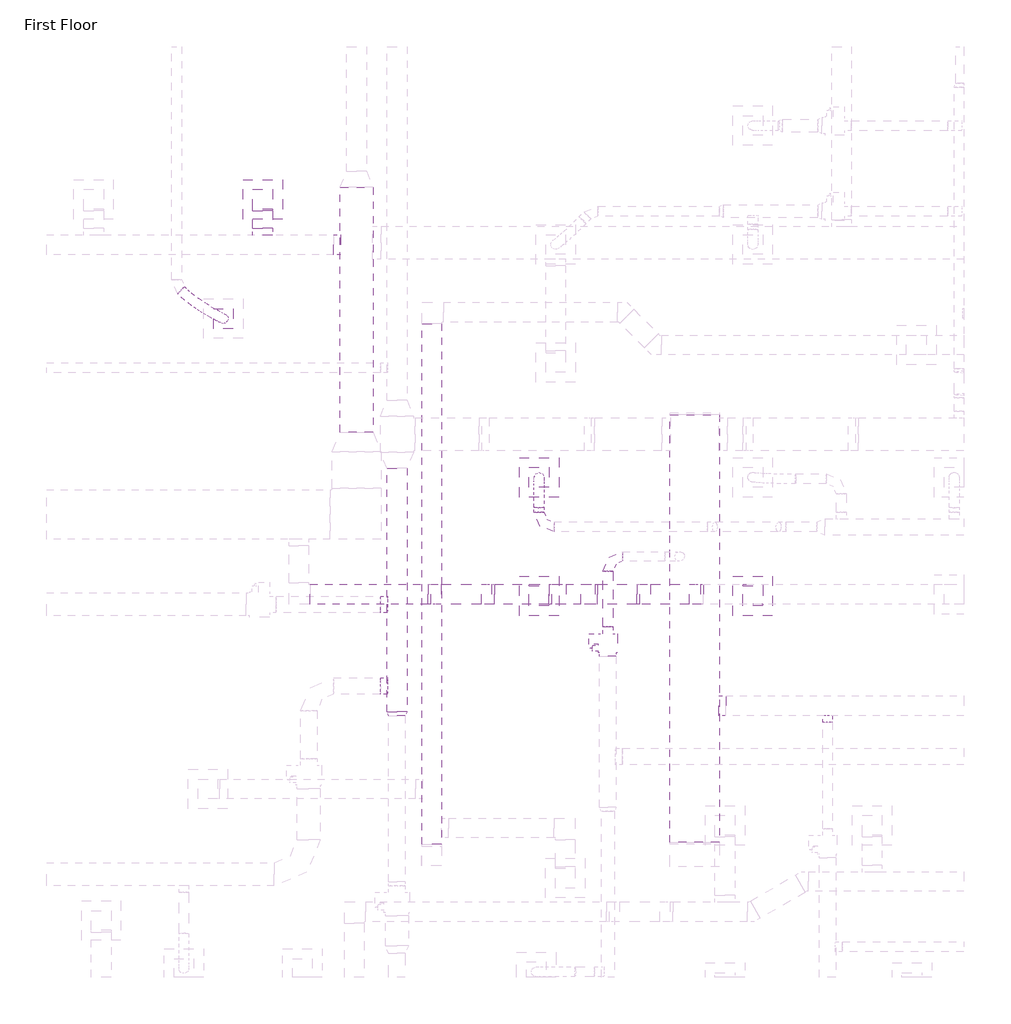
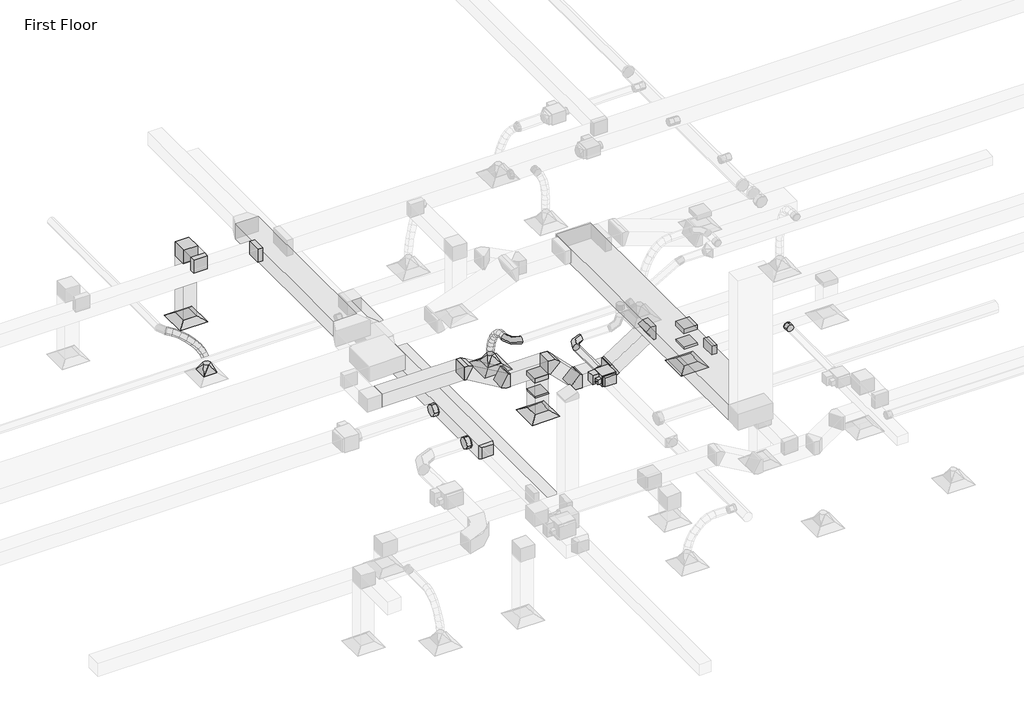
# One storey, part 39 of 61: 22 duct fittings, 20 duct segments, 4 air terminals, 1 proxy.
"""IFC4 building model written with IfcOpenShell, lengths in millimetres."""

from ifc_helpers import new_model, si_unit, point, frame, frame_2d, origin, place, context, project, spatial, polyline, circle_curve, ellipse_curve, trimmed, segment, composite_curve, outline, extrude, transform, mapped, element, save
from ifc_brep_helpers import plane_surface, cylinder_surface, advanced_brep
from components import m_exhaust_grill_er_600_x_600_face_300_x_300_connection_ff221211, m_vav_unit_single_duct_150_mm_ffdab17b, m_rectangular_elbow_mitered_standard_b81e202c, m_rectangular_elbow_mitered_standard_8eee5933, m_rectangular_elbow_mitered_standard_c00f9ebc, m_rectangular_elbow_mitered_standard_8b3b5101, m_rectangular_takeoff_standard_c00386d1, m_rectangular_takeoff_standard_b44bfa45, m_rectangular_takeoff_standard_a9933c07, m_rectangular_transition_angle_45_degree_46cb5fbc, m_rectangular_transition_angle_45_degree_29f2d6f3, m_rectangular_to_round_transition_angle_45_degree_8f201c83, m_round_elbow_1_5_d_2e586196, m_round_takeoff_standard_ce92a222, m_round_takeoff_standard_6838db43, m_round_takeoff_standard_aef5fa80

model = new_model("IFC4")

# Units and contexts
model_context = context("Model", 3, world=origin())
ifc_project = project(units=[si_unit("LENGTHUNIT", "METRE", prefix="MILLI")], contexts=[model_context])

# Site, building, storey
site = spatial("IfcSite", under=ifc_project)
building = spatial("IfcBuilding", under=site)
storey = spatial("IfcBuildingStorey", under=building, Name="First Floor", Elevation=0.0)

# Air terminals
placement = place(None, origin())
m_exhaust_grill_er_600_x_600_face_300_x_300_connection_shape = m_exhaust_grill_er_600_x_600_face_300_x_300_connection_ff221211(model_context)
element("IfcAirTerminal", 1, ObjectType="M_Return Register : RR-600 x 600 Face 300 x 300 Connection", at=placement, inside=storey, context=model_context, shape_type="MappedRepresentation", body=[
    mapped(m_exhaust_grill_er_600_x_600_face_300_x_300_connection_shape, transform((-41559.2724352, 47871.0942628, 2680.0), x_axis=(1.0, 0.0, 0.0), y_axis=(0.0, 1.0, 0.0), z_axis=(0.0, 0.0, 1.0))),
])
element("IfcAirTerminal", 2, ObjectType="M_Return Register : RR-600 x 600 Face 300 x 300 Connection", at=placement, inside=storey, context=model_context, shape_type="MappedRepresentation", body=[
    mapped(m_exhaust_grill_er_600_x_600_face_300_x_300_connection_shape, transform((-37357.0449113, 41845.0, 2680.0), x_axis=(1.0, 0.0, 0.0), y_axis=(0.0, 1.0, 0.0), z_axis=(0.0, 0.0, 1.0))),
])
element("IfcAirTerminal", 3, ObjectType="M_Return Register : RR-600 x 600 Face 300 x 300 Connection", at=placement, inside=storey, context=model_context, shape_type="MappedRepresentation", body=[
    mapped(m_exhaust_grill_er_600_x_600_face_300_x_300_connection_shape, transform((-34106.7085824, 41845.0, 2680.0), x_axis=(1.0, 0.0, 0.0), y_axis=(0.0, 1.0, 0.0), z_axis=(0.0, 0.0, 1.0))),
])
element("IfcAirTerminal", 4, ObjectType="M_Supply Diffuser : SD-600 x 600 Face 300 x 300 Connection", at=placement, inside=storey, context=model_context, shape_type="MappedRepresentation", body=[
    mapped(m_exhaust_grill_er_600_x_600_face_300_x_300_connection_shape, transform((-37357.0449113, 43646.5953777, 2680.0), x_axis=(1.0, 0.0, 0.0), y_axis=(0.0, 1.0, 0.0), z_axis=(0.0, 0.0, 1.0))),
])

# Proxy
m_vav_unit_single_duct_150_mm_shape = m_vav_unit_single_duct_150_mm_ffdab17b(model_context)
element("IfcBuildingElementProxy", 5, Name="M_VAV Unit - Single Duct : 150 mm", ObjectType="M_VAV Unit - Single Duct : 150 mm", at=placement, inside=storey, context=model_context, shape_type="MappedRepresentation", body=[
    mapped(m_vav_unit_single_duct_150_mm_shape, transform((-36311.3408383, 41272.4324746, 3499.9785156), x_axis=(0.0, -1.0, 0.0), y_axis=(1.0, 0.0, 0.0), z_axis=(0.0, 0.0, 1.0))),
])

# Duct fittings
m_rectangular_elbow_mitered_standard_shape = m_rectangular_elbow_mitered_standard_b81e202c(model_context)
element("IfcDuctFitting", 6, ObjectType="M_Rectangular Elbow - Mitered : Standard", at=placement, inside=storey, context=model_context, shape_type="MappedRepresentation", body=[
    mapped(m_rectangular_elbow_mitered_standard_shape, transform((-36552.6179613, 41867.8999759, 3183.5754036), x_axis=(-1.0, 0.0, 0.0), y_axis=(0.0, 0.0, 1.0), z_axis=(0.0, 1.0, 0.0))),
])
element("IfcDuctFitting", 7, ObjectType="M_Rectangular Elbow - Mitered : Standard", at=placement, inside=storey, context=model_context, shape_type="MappedRepresentation", body=[
    mapped(m_rectangular_elbow_mitered_standard_shape, transform((-37119.0425578, 41867.8999759, 3750.0), x_axis=(-0.7071067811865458, 0.0, 0.7071067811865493), y_axis=(-0.7071067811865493, 0.0, -0.7071067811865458), z_axis=(0.0, -1.0, 0.0))),
])
m_rectangular_elbow_mitered_standard_2_shape = m_rectangular_elbow_mitered_standard_8eee5933(model_context)
element("IfcDuctFitting", 8, ObjectType="M_Rectangular Elbow - Mitered : Standard", at=placement, inside=storey, context=model_context, shape_type="MappedRepresentation", body=[
    mapped(m_rectangular_elbow_mitered_standard_2_shape, transform((-41559.2724352, 47871.0942628, 4259.5), x_axis=(0.0, 0.0, 1.0), y_axis=(0.0, -1.0, 0.0), z_axis=(1.0, 0.0, 0.0))),
])
m_rectangular_elbow_mitered_standard_3_shape = m_rectangular_elbow_mitered_standard_c00f9ebc(model_context)
element("IfcDuctFitting", 9, ObjectType="M_Rectangular Elbow - Mitered : Standard", at=placement, inside=storey, context=model_context, shape_type="MappedRepresentation", body=[
    mapped(m_rectangular_elbow_mitered_standard_3_shape, transform((-34930.7549535, 41867.8999759, 3750.0), x_axis=(-1.0, 0.0, 0.0), y_axis=(0.0, 0.0, -1.0), z_axis=(0.0, -1.0, 0.0))),
])
element("IfcDuctFitting", 10, ObjectType="M_Rectangular Elbow - Mitered : Standard", at=placement, inside=storey, context=model_context, shape_type="MappedRepresentation", body=[
    mapped(m_rectangular_elbow_mitered_standard_3_shape, transform((-35802.9723442, 41867.8999759, 3183.5754036), x_axis=(-0.8386705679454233, 0.0, -0.5446390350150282), y_axis=(-0.5446390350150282, 0.0, 0.8386705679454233), z_axis=(0.0, 1.0, 0.0))),
])
m_rectangular_elbow_mitered_standard_4_shape = m_rectangular_elbow_mitered_standard_8b3b5101(model_context)
element("IfcDuctFitting", 11, ObjectType="M_Rectangular Elbow - Mitered : Standard", at=placement, inside=storey, context=model_context, shape_type="MappedRepresentation", body=[
    mapped(m_rectangular_elbow_mitered_standard_4_shape, transform((-38099.0425578, 41867.8999759, 3750.0), x_axis=(-1.0, 0.0, 0.0), y_axis=(0.0, 0.0, 1.0), z_axis=(0.0, 1.0, 0.0))),
])
element("IfcDuctFitting", 12, ObjectType="M_Rectangular Elbow - Mitered : Standard", at=placement, inside=storey, context=model_context, shape_type="MappedRepresentation", body=[
    mapped(m_rectangular_elbow_mitered_standard_4_shape, transform((-38981.5224442, 41867.8999759, 4259.5), x_axis=(-0.8660254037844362, 0.0, 0.5000000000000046), y_axis=(-0.5000000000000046, 0.0, -0.8660254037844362), z_axis=(0.0, -1.0, 0.0))),
])
m_rectangular_takeoff_standard_shape = m_rectangular_takeoff_standard_c00386d1(model_context)
element("IfcDuctFitting", 13, ObjectType="M_Rectangular Takeoff : Standard", at=placement, inside=storey, context=model_context, shape_type="MappedRepresentation", body=[
    mapped(m_rectangular_takeoff_standard_shape, transform((-34106.7085824, 41867.8999759, 3600.0), x_axis=(0.0, 0.0, -1.0), y_axis=(0.0, 1.0, 0.0), z_axis=(1.0, 0.0, 0.0))),
])
element("IfcDuctFitting", 14, ObjectType="M_Rectangular Takeoff : Standard", at=placement, inside=storey, context=model_context, shape_type="MappedRepresentation", body=[
    mapped(m_rectangular_takeoff_standard_shape, transform((-37357.0449113, 41867.8999759, 3600.0), x_axis=(0.0, 0.0, -1.0), y_axis=(0.0, 1.0, 0.0), z_axis=(1.0, 0.0, 0.0))),
])
element("IfcDuctFitting", 15, ObjectType="M_Rectangular Takeoff : Standard", at=placement, inside=storey, context=model_context, shape_type="MappedRepresentation", body=[
    mapped(m_rectangular_takeoff_standard_shape, transform((-41559.2724352, 47329.7739392, 4259.5), x_axis=(0.0, 1.0, 0.0), y_axis=(1.0, 0.0, 0.0), z_axis=(0.0, 0.0, -1.0))),
])
m_rectangular_takeoff_standard_2_shape = m_rectangular_takeoff_standard_b44bfa45(model_context)
element("IfcDuctFitting", 16, ObjectType="M_Rectangular Takeoff : Standard", at=placement, inside=storey, context=model_context, shape_type="MappedRepresentation", body=[
    mapped(m_rectangular_takeoff_standard_2_shape, transform((-40381.0542232, 47179.7739392, 4259.5), x_axis=(-1.0, 0.0, 0.0), y_axis=(0.0, 1.0, 0.0), z_axis=(0.0, 0.0, -1.0))),
])
m_rectangular_takeoff_standard_3_shape = m_rectangular_takeoff_standard_a9933c07(model_context)
element("IfcDuctFitting", 17, ObjectType="M_Rectangular Takeoff : Standard", at=placement, inside=storey, context=model_context, shape_type="MappedRepresentation", body=[
    mapped(m_rectangular_takeoff_standard_3_shape, transform((-34616.1904063, 40172.9559427, 4269.5), x_axis=(1.0, 0.0, 0.0), y_axis=(0.0, -1.0, 0.0), z_axis=(0.0, 0.0, -1.0))),
])
m_rectangular_transition_angle_45_degree_shape = m_rectangular_transition_angle_45_degree_46cb5fbc(model_context)
element("IfcDuctFitting", 18, ObjectType="M_Rectangular Transition - Angle : 45 Degree", at=placement, inside=storey, context=model_context, shape_type="MappedRepresentation", body=[
    mapped(m_rectangular_transition_angle_45_degree_shape, transform((-39517.6187402, 40022.8982867, 3659.5), x_axis=(0.0, 0.9999999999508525, -9.914385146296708e-06), y_axis=(-1.0, 0.0, 0.0), z_axis=(0.0, 9.914385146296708e-06, 0.9999999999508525))),
])
m_rectangular_transition_angle_45_degree_2_shape = m_rectangular_transition_angle_45_degree_29f2d6f3(model_context)
element("IfcDuctFitting", 19, ObjectType="M_Rectangular Transition - Angle : 45 Degree", at=placement, inside=storey, context=model_context, shape_type="MappedRepresentation", body=[
    mapped(m_rectangular_transition_angle_45_degree_2_shape, transform((-34106.7085824, 41845.0, 3162.6), x_axis=(0.0, 0.0, 1.0), y_axis=(1.0, 0.0, 0.0), z_axis=(0.0, 1.0, 0.0))),
])
element("IfcDuctFitting", 20, ObjectType="M_Rectangular Transition - Angle : 45 Degree", at=placement, inside=storey, context=model_context, shape_type="MappedRepresentation", body=[
    mapped(m_rectangular_transition_angle_45_degree_2_shape, transform((-37357.0449113, 41845.0, 3162.6), x_axis=(0.0, 0.0, 1.0), y_axis=(1.0, 0.0, 0.0), z_axis=(0.0, 1.0, 0.0))),
])
m_rectangular_to_round_transition_angle_45_degree_shape = m_rectangular_to_round_transition_angle_45_degree_8f201c83(model_context)
element("IfcDuctFitting", 21, ObjectType="M_Rectangular to Round Transition - Angle : 45 Degree", at=placement, inside=storey, context=model_context, shape_type="MappedRepresentation", body=[
    mapped(m_rectangular_to_round_transition_angle_45_degree_shape, transform((-42157.9361632, 46057.2158131, 2781.6), x_axis=(0.0, 0.0, 1.0), y_axis=(1.0, 0.0, 0.0), z_axis=(0.0, 1.0, 0.0))),
])
element("IfcDuctFitting", 22, ObjectType="M_Rectangular to Round Transition - Angle : 45 Degree", at=placement, inside=storey, context=model_context, shape_type="MappedRepresentation", body=[
    mapped(m_rectangular_to_round_transition_angle_45_degree_shape, transform((-37357.0449113, 43646.5953777, 2781.6), x_axis=(0.0, 0.0, 1.0), y_axis=(1.0, 0.0, 0.0), z_axis=(0.0, 1.0, 0.0))),
])
m_round_elbow_1_5_d_shape = m_round_elbow_1_5_d_2e586196(model_context)
element("IfcDuctFitting", 23, ObjectType="M_Round Elbow : 1.5 D", at=placement, inside=storey, context=model_context, shape_type="MappedRepresentation", body=[
    mapped(m_round_elbow_1_5_d_shape, transform((-36310.4908383, 42443.2870823, 3609.5), x_axis=(-1.0, 0.0, 0.0), y_axis=(0.0, -0.9999999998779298, 1.562499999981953e-05), z_axis=(0.0, 1.562499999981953e-05, 0.9999999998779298))),
])
element("IfcDuctFitting", 24, ObjectType="M_Round Elbow : 1.5 D", at=placement, inside=storey, context=model_context, shape_type="MappedRepresentation", body=[
    mapped(m_round_elbow_1_5_d_shape, transform((-37357.0449113, 42891.9406833, 3659.5), x_axis=(0.0, -1.0, 0.0), y_axis=(1.0, 0.0, 0.0), z_axis=(0.0, 0.0, 1.0))),
])
m_round_takeoff_standard_shape = m_round_takeoff_standard_ce92a222(model_context)
element("IfcDuctFitting", 25, ObjectType="M_Round Takeoff : Standard", at=placement, inside=storey, context=model_context, shape_type="MappedRepresentation", body=[
    mapped(m_round_takeoff_standard_shape, transform((-39667.6187402, 40472.4324746, 3659.5), x_axis=(-1.0, 0.0, 0.0), y_axis=(0.0, 1.0, 0.0), z_axis=(0.0, 0.0, -1.0))),
])
m_round_takeoff_standard_2_shape = m_round_takeoff_standard_6838db43(model_context)
element("IfcDuctFitting", 26, ObjectType="M_Round Takeoff : Standard", at=placement, inside=storey, context=model_context, shape_type="MappedRepresentation", body=[
    mapped(m_round_takeoff_standard_2_shape, transform((-39667.6187402, 41714.569914, 3659.5094966), x_axis=(-0.9999999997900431, 0.0, -2.0491803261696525e-05), y_axis=(0.0, 1.0000000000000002, 0.0), z_axis=(2.0491803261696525e-05, 0.0, -0.9999999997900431))),
])
m_round_takeoff_standard_3_shape = m_round_takeoff_standard_aef5fa80(model_context)
element("IfcDuctFitting", 27, ObjectType="M_Round Takeoff : Standard", at=placement, inside=storey, context=model_context, shape_type="MappedRepresentation", body=[
    mapped(m_round_takeoff_standard_3_shape, transform((-32970.7817748, 40022.9559427, 4269.4934778), x_axis=(0.0, -0.9999999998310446, 1.838235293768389e-05), y_axis=(-1.0, 0.0, 0.0), z_axis=(0.0, -1.838235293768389e-05, -0.9999999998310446))),
])

# Duct segments
element("IfcDuctSegment", 28, ObjectType="Flex - Round", at=placement, inside=storey, context=model_context, shape_type="AdvancedBrep", body=[
    advanced_brep(
    [(-42744.0995534, 46540.2835509, 3669.1), (-42801.2330296, 46490.8579658, 3594.6494967), (-42844.9500766, 46429.2467463, 3669.1), (-42787.8166004, 46478.6723314, 3743.5505033), (-42648.247493, 46453.2247555, 3653.3387967), (-42709.080208, 46407.1590489, 3579.4965689), (-42744.9799131, 46338.4476339, 3652.6616463), (-42684.147198, 46384.5133405, 3726.5038741), (-42115.729761, 46119.1906896, 2964.3195858), (-42096.7265271, 46015.2424306, 2973.4648877), (-42200.1425655, 45995.2409366, 2961.0124486), (-42219.1457994, 46099.1891956, 2951.8671466), (-42546.4830044, 46374.3601085, 3609.4282949), (-42614.5706125, 46333.9167422, 3538.7164911), (-42636.2794506, 46254.2078001, 3605.7583314), (-42568.1918425, 46294.6511664, 3676.4701352), (-42442.3497329, 46303.0315585, 3540.4701851), (-42517.2211156, 46267.2348992, 3474.2506657), (-42527.8657021, 46179.947236, 3533.9656463), (-42452.9943193, 46215.7438953, 3600.1851656), (-42342.4526916, 46241.0808683, 3450.4892341), (-42424.0167015, 46209.4346109, 3390.2980109), (-42425.6943122, 46116.586119, 3441.9361056), (-42344.1303023, 46148.2323763, 3502.1273287), (-42253.307474, 46190.1555977, 3343.6355306), (-42341.7787694, 46162.4552097, 3291.7237088), (-42335.8103454, 46065.2388291, 3334.196902), (-42247.33905, 46092.9392171, 3386.1087238), (-42181.3688906, 46151.8005121, 3224.0141307), (-42276.9495345, 46127.8905751, 3183.9239237), (-42264.3196491, 46027.122541, 3215.320261), (-42168.7390052, 46051.0324781, 3255.410468), (-42133.1567668, 46127.5558451, 3095.6124417), (-42235.1828285, 46106.8871468, 3072.6880938), (-42217.263056, 46003.4589612, 3089.9960568), (-42115.2369943, 46024.1276595, 3112.9204047)],
    [
        (0, 1, circle_curve(frame((-42794.524815, 46484.7651486, 3669.1), z_axis=(-0.7348218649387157, 0.6674108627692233, 0.12082866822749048), x_axis=(0.6723368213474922, 0.7402453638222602, 0.0)), 75.0)),
        (1, 2, circle_curve(frame((-42794.524815, 46484.7651486, 3669.1), z_axis=(-0.7348218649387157, 0.6674108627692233, 0.12082866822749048), x_axis=(0.6723368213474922, 0.7402453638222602, 0.0)), 75.0)),
        (2, 3, circle_curve(frame((-42794.524815, 46484.7651486, 3669.1), z_axis=(-0.7348218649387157, 0.6674108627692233, 0.12082866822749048), x_axis=(0.6723368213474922, 0.7402453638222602, 0.0)), 75.0)),
        (3, 0, circle_curve(frame((-42794.524815, 46484.7651486, 3669.1), z_axis=(-0.7348218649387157, 0.6674108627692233, 0.12082866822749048), x_axis=(0.6723368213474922, 0.7402453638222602, 0.0)), 75.0)),
        (0, 4),
        (4, 5, ellipse_curve(frame((-42696.613703, 46395.8361947, 3653.0002215), z_axis=(-0.7460172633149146, 0.6274153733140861, 0.223177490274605), x_axis=(0.06024867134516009, 0.3973552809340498, -0.9156849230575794)), 75.4603177, 75.0)),
        (5, 1),
        (5, 6, ellipse_curve(frame((-42696.613703, 46395.8361947, 3653.0002215), z_axis=(-0.7460172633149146, 0.6274153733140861, 0.223177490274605), x_axis=(0.06024867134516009, 0.3973552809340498, -0.9156849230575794)), 75.4603177, 75.0)),
        (6, 2),
        (6, 7, ellipse_curve(frame((-42696.613703, 46395.8361947, 3653.0002215), z_axis=(-0.7460172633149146, 0.6274153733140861, 0.223177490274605), x_axis=(0.06024867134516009, 0.3973552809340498, -0.9156849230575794)), 75.4603177, 75.0)),
        (7, 3),
        (7, 4, ellipse_curve(frame((-42696.613703, 46395.8361947, 3653.0002215), z_axis=(-0.7460172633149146, 0.6274153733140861, 0.223177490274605), x_axis=(0.06024867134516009, 0.3973552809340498, -0.9156849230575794)), 75.4603177, 75.0)),
        (8, 9, circle_curve(frame((-42157.9361632, 46057.2158131, 2962.6660172), z_axis=(0.1313181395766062, -0.06303415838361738, -0.9893342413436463), x_axis=(0.5627520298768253, 0.8263316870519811, 0.02204758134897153)), 75.0)),
        (9, 10, circle_curve(frame((-42157.9361632, 46057.2158131, 2962.6660172), z_axis=(0.1313181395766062, -0.06303415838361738, -0.9893342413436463), x_axis=(0.5627520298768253, 0.8263316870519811, 0.02204758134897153)), 75.0)),
        (10, 11, circle_curve(frame((-42157.9361632, 46057.2158131, 2962.6660172), z_axis=(0.1313181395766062, -0.06303415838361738, -0.9893342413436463), x_axis=(0.5627520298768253, 0.8263316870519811, 0.02204758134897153)), 75.0)),
        (11, 8, circle_curve(frame((-42157.9361632, 46057.2158131, 2962.6660172), z_axis=(0.1313181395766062, -0.06303415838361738, -0.9893342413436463), x_axis=(0.5627520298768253, 0.8263316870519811, 0.02204758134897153)), 75.0)),
        (4, 12),
        (12, 13, ellipse_curve(frame((-42591.3812275, 46314.2839543, 3607.5933131), z_axis=(-0.739035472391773, 0.5400203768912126, 0.4027462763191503), x_axis=(-0.13442959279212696, 0.46760117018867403, -0.873657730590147)), 75.3032035, 75.0)),
        (13, 5),
        (13, 14, ellipse_curve(frame((-42591.3812275, 46314.2839543, 3607.5933131), z_axis=(-0.739035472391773, 0.5400203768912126, 0.4027462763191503), x_axis=(-0.13442959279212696, 0.46760117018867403, -0.873657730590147)), 75.3032035, 75.0)),
        (14, 6),
        (14, 15, ellipse_curve(frame((-42591.3812275, 46314.2839543, 3607.5933131), z_axis=(-0.739035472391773, 0.5400203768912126, 0.4027462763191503), x_axis=(-0.13442959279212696, 0.46760117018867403, -0.873657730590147)), 75.3032035, 75.0)),
        (15, 7),
        (15, 12, ellipse_curve(frame((-42591.3812275, 46314.2839543, 3607.5933131), z_axis=(-0.739035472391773, 0.5400203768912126, 0.4027462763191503), x_axis=(-0.13442959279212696, 0.46760117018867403, -0.873657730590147)), 75.3032035, 75.0)),
        (12, 16),
        (16, 17, ellipse_curve(frame((-42485.1077175, 46241.4893973, 3537.2179157), z_axis=(-0.701605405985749, 0.4586388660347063, 0.5453441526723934), x_axis=(-0.3116657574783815, 0.4907204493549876, -0.8136694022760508)), 75.2345392, 75.0)),
        (17, 13),
        (17, 18, ellipse_curve(frame((-42485.1077175, 46241.4893973, 3537.2179157), z_axis=(-0.701605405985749, 0.4586388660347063, 0.5453441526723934), x_axis=(-0.3116657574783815, 0.4907204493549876, -0.8136694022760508)), 75.2345392, 75.0)),
        (18, 14),
        (18, 19, ellipse_curve(frame((-42485.1077175, 46241.4893973, 3537.2179157), z_axis=(-0.701605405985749, 0.4586388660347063, 0.5453441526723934), x_axis=(-0.3116657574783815, 0.4907204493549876, -0.8136694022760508)), 75.2345392, 75.0)),
        (19, 15),
        (19, 16, ellipse_curve(frame((-42485.1077175, 46241.4893973, 3537.2179157), z_axis=(-0.701605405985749, 0.4586388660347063, 0.5453441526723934), x_axis=(-0.3116657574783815, 0.4907204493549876, -0.8136694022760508)), 75.2345392, 75.0)),
        (16, 20),
        (20, 21, ellipse_curve(frame((-42384.0735019, 46178.8334936, 3446.2126698), z_axis=(-0.6401161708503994, 0.3822172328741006, 0.6664542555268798), x_axis=(-0.47482979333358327, 0.4851313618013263, -0.7342916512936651)), 75.2240198, 75.0)),
        (21, 17),
        (21, 22, ellipse_curve(frame((-42384.0735019, 46178.8334936, 3446.2126698), z_axis=(-0.6401161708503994, 0.3822172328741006, 0.6664542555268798), x_axis=(-0.47482979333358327, 0.4851313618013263, -0.7342916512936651)), 75.2240198, 75.0)),
        (22, 18),
        (22, 23, ellipse_curve(frame((-42384.0735019, 46178.8334936, 3446.2126698), z_axis=(-0.6401161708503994, 0.3822172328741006, 0.6664542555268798), x_axis=(-0.47482979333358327, 0.4851313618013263, -0.7342916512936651)), 75.2240198, 75.0)),
        (23, 19),
        (23, 20, ellipse_curve(frame((-42384.0735019, 46178.8334936, 3446.2126698), z_axis=(-0.6401161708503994, 0.3822172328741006, 0.6664542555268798), x_axis=(-0.47482979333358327, 0.4851313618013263, -0.7342916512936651)), 75.2240198, 75.0)),
        (20, 24),
        (24, 25, ellipse_curve(frame((-42294.5589097, 46127.6972134, 3338.9162163), z_axis=(-0.5512187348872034, 0.30539041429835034, 0.7764628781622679), x_axis=(-0.6228955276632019, 0.4685350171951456, -0.6264791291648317)), 75.2659875, 75.0)),
        (25, 21),
        (25, 26, ellipse_curve(frame((-42294.5589097, 46127.6972134, 3338.9162163), z_axis=(-0.5512187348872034, 0.30539041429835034, 0.7764628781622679), x_axis=(-0.6228955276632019, 0.4685350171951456, -0.6264791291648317)), 75.2659875, 75.0)),
        (26, 22),
        (26, 27, ellipse_curve(frame((-42294.5589097, 46127.6972134, 3338.9162163), z_axis=(-0.5512187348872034, 0.30539041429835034, 0.7764628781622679), x_axis=(-0.6228955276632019, 0.4685350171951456, -0.6264791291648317)), 75.2659875, 75.0)),
        (27, 23),
        (27, 24, ellipse_curve(frame((-42294.5589097, 46127.6972134, 3338.9162163), z_axis=(-0.5512187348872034, 0.30539041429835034, 0.7764628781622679), x_axis=(-0.6228955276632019, 0.4685350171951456, -0.6264791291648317)), 75.2659875, 75.0)),
        (24, 28),
        (28, 29, ellipse_curve(frame((-42222.8442699, 46089.4615266, 3219.6671959), z_axis=(-0.4236804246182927, 0.22062244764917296, 0.8785332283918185), x_axis=(-0.7527740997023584, 0.45369057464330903, -0.4769654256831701)), 75.3790752, 75.0)),
        (29, 25),
        (29, 30, ellipse_curve(frame((-42222.8442699, 46089.4615266, 3219.6671959), z_axis=(-0.4236804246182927, 0.22062244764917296, 0.8785332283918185), x_axis=(-0.7527740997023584, 0.45369057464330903, -0.4769654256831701)), 75.3790752, 75.0)),
        (30, 26),
        (30, 31, ellipse_curve(frame((-42222.8442699, 46089.4615266, 3219.6671959), z_axis=(-0.4236804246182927, 0.22062244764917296, 0.8785332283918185), x_axis=(-0.7527740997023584, 0.45369057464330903, -0.4769654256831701)), 75.3790752, 75.0)),
        (31, 27),
        (31, 28, ellipse_curve(frame((-42222.8442699, 46089.4615266, 3219.6671959), z_axis=(-0.4236804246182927, 0.22062244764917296, 0.8785332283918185), x_axis=(-0.7527740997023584, 0.45369057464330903, -0.4769654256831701)), 75.3790752, 75.0)),
        (28, 32),
        (32, 33, ellipse_curve(frame((-42175.2099114, 46065.5074031, 3092.8042492), z_axis=(-0.24063751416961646, 0.11949737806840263, 0.9632310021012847), x_axis=(-0.8557031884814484, 0.4422707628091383, -0.2686421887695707)), 75.5979876, 75.0)),
        (33, 29),
        (33, 34, ellipse_curve(frame((-42175.2099114, 46065.5074031, 3092.8042492), z_axis=(-0.24063751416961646, 0.11949737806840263, 0.9632310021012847), x_axis=(-0.8557031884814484, 0.4422707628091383, -0.2686421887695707)), 75.5979876, 75.0)),
        (34, 30),
        (34, 35, ellipse_curve(frame((-42175.2099114, 46065.5074031, 3092.8042492), z_axis=(-0.24063751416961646, 0.11949737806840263, 0.9632310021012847), x_axis=(-0.8557031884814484, 0.4422707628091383, -0.2686421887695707)), 75.5979876, 75.0)),
        (35, 31),
        (35, 32, ellipse_curve(frame((-42175.2099114, 46065.5074031, 3092.8042492), z_axis=(-0.24063751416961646, 0.11949737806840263, 0.9632310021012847), x_axis=(-0.8557031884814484, 0.4422707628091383, -0.2686421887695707)), 75.5979876, 75.0)),
        (32, 8),
        (11, 33),
        (10, 34),
        (9, 35),
    ],
    [
        plane_surface(frame((-42794.524815, 46498.1260252, 3595.2996817), z_axis=(-0.7348218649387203, 0.6674108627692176, 0.12082866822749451), x_axis=(0.6782601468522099, 0.7230678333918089, 0.13090485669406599))),
        cylinder_surface(frame((-42794.524815, 46484.7651486, 3669.1), z_axis=(-0.7348218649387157, 0.6674108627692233, 0.12082866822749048), x_axis=(0.6723368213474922, 0.7402453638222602, 0.0)), 75.0),
        plane_surface(frame((-42157.9361632, 46132.0640461, 2957.8971583), z_axis=(0.13131813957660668, -0.06303415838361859, -0.9893342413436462), x_axis=(0.9913402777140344, 0.008349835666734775, 0.13105240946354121))),
        cylinder_surface(frame((-42696.613703, 46395.8361947, 3653.0002215), z_axis=(-0.748111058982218, 0.5797652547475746, 0.3228034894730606), x_axis=(0.6169322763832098, 0.7868416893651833, 0.016574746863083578)), 75.0),
        cylinder_surface(frame((-42591.3812275, 46314.2839543, 3607.5933131), z_axis=(-0.7240085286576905, 0.49592678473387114, 0.4794457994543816), x_axis=(0.5809429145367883, 0.8131394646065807, 0.03618758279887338)), 75.0),
        cylinder_surface(frame((-42485.1077175, 46241.4893973, 3537.2179157), z_axis=(-0.6748278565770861, 0.4184913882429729, 0.6078423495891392), x_axis=(0.5600061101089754, 0.8268258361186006, 0.052461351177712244)), 75.0),
        cylinder_surface(frame((-42384.0735019, 46178.8334936, 3446.2126698), z_axis=(-0.6015919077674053, 0.34366656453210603, 0.7210967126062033), x_axis=(0.5504315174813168, 0.8325428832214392, 0.06242989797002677)), 75.0),
        cylinder_surface(frame((-42294.5589097, 46127.6972134, 3338.9162163), z_axis=(-0.49694958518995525, 0.26495578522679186, 0.8263410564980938), x_axis=(0.5496784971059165, 0.8329600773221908, 0.0634906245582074)), 75.0),
        cylinder_surface(frame((-42222.8442699, 46089.4615266, 3219.6671959), z_axis=(-0.34614995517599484, 0.174070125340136, 0.9218892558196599), x_axis=(0.5553221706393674, 0.8300212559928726, 0.05178804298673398)), 75.0),
        cylinder_surface(frame((-42175.2099114, 46065.5074031, 3092.8042492), z_axis=(-0.1313181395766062, 0.06303415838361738, 0.9893342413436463), x_axis=(0.5627520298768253, 0.8263316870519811, 0.02204758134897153)), 75.0),
    ],
    [
        (0, [[1, 2, 3, 4]]),
        (1, [[-1, 5, 6, 7]]),
        (1, [[-2, -7, 8, 9]]),
        (1, [[-3, -9, 10, 11]]),
        (1, [[-4, -11, 12, -5]]),
        (2, [[13, 14, 15, 16]]),
        (3, [[-6, 17, 18, 19]]),
        (3, [[-8, -19, 20, 21]]),
        (3, [[-10, -21, 22, 23]]),
        (3, [[-12, -23, 24, -17]]),
        (4, [[-18, 25, 26, 27]]),
        (4, [[-20, -27, 28, 29]]),
        (4, [[-22, -29, 30, 31]]),
        (4, [[-24, -31, 32, -25]]),
        (5, [[-26, 33, 34, 35]]),
        (5, [[-28, -35, 36, 37]]),
        (5, [[-30, -37, 38, 39]]),
        (5, [[-32, -39, 40, -33]]),
        (6, [[-34, 41, 42, 43]]),
        (6, [[-36, -43, 44, 45]]),
        (6, [[-38, -45, 46, 47]]),
        (6, [[-40, -47, 48, -41]]),
        (7, [[-42, 49, 50, 51]]),
        (7, [[-44, -51, 52, 53]]),
        (7, [[-46, -53, 54, 55]]),
        (7, [[-48, -55, 56, -49]]),
        (8, [[-50, 57, 58, 59]]),
        (8, [[-52, -59, 60, 61]]),
        (8, [[-54, -61, 62, 63]]),
        (8, [[-56, -63, 64, -57]]),
        (9, [[-58, 65, -16, 66]]),
        (9, [[-60, -66, -15, 67]]),
        (9, [[-62, -67, -14, 68]]),
        (9, [[-64, -68, -13, -65]]),
    ],
),
])
element("IfcDuctSegment", 29, ObjectType="Flex - Round", at=placement, inside=storey, context=model_context, shape_type="AdvancedBrep", body=[
    advanced_brep(
    [(-37432.0449113, 43191.9406833, 3659.5), (-37357.0449113, 43178.1383024, 3585.7809775), (-37282.0449113, 43191.9406833, 3659.5), (-37357.0449113, 43205.7430642, 3733.2190225), (-37432.0449113, 43291.1053362, 3640.9334447), (-37357.0449113, 43264.7060901, 3569.5729278), (-37282.0449113, 43291.1053362, 3640.9334447), (-37357.0449113, 43317.5045823, 3712.2939615), (-37432.0449113, 43646.5953777, 2962.6660172), (-37357.0449113, 43721.3882377, 2968.2363036), (-37282.0449113, 43646.5953777, 2962.6660172), (-37357.0449113, 43571.8025177, 2957.0957308), (-37432.0449113, 43379.9859293, 3589.6215069), (-37357.0449113, 43333.9814364, 3529.5793574), (-37282.0449113, 43379.9859293, 3589.6215069), (-37357.0449113, 43425.9904222, 3649.6636563), (-37432.0449113, 43457.6769473, 3512.1457789), (-37357.0449113, 43399.5913763, 3464.1512296), (-37282.0449113, 43457.6769473, 3512.1457789), (-37357.0449113, 43515.7625183, 3560.1403282), (-37432.0449113, 43523.2728749, 3415.087853), (-37357.0449113, 43458.0089364, 3377.7146562), (-37282.0449113, 43523.2728749, 3415.087853), (-37357.0449113, 43588.5368135, 3452.4610499), (-37432.0449113, 43575.868197, 3305.0293216), (-37357.0449113, 43506.1727352, 3276.9293248), (-37282.0449113, 43575.868197, 3305.0293216), (-37357.0449113, 43645.5636589, 3333.1293184), (-37432.0449113, 43614.5573983, 3188.551777), (-37357.0449113, 43541.9819951, 3169.1221196), (-37282.0449113, 43614.5573983, 3188.551777), (-37357.0449113, 43687.1328016, 3207.9814344), (-37432.0449113, 43638.4349636, 3072.2368114), (-37357.0449113, 43563.9994583, 3061.8682831), (-37282.0449113, 43638.4349636, 3072.2368114), (-37357.0449113, 43712.8704689, 3082.6053397)],
    [
        (0, 1, circle_curve(frame((-37357.0449113, 43191.9406833, 3659.5), z_axis=(0.0, -0.9829203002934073, 0.18403174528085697), x_axis=(-1.0, 0.0, 0.0)), 75.0)),
        (1, 2, circle_curve(frame((-37357.0449113, 43191.9406833, 3659.5), z_axis=(0.0, -0.9829203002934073, 0.18403174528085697), x_axis=(-1.0, 0.0, 0.0)), 75.0)),
        (2, 3, circle_curve(frame((-37357.0449113, 43191.9406833, 3659.5), z_axis=(0.0, -0.9829203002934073, 0.18403174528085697), x_axis=(-1.0, 0.0, 0.0)), 75.0)),
        (3, 0, circle_curve(frame((-37357.0449113, 43191.9406833, 3659.5), z_axis=(0.0, -0.9829203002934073, 0.18403174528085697), x_axis=(-1.0, 0.0, 0.0)), 75.0)),
        (0, 4),
        (4, 5, ellipse_curve(frame((-37357.0449113, 43291.1053362, 3640.9334447), z_axis=(0.0, -0.9378795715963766, 0.34696096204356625), x_axis=(0.0, -0.3469609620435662, -0.9378795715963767)), 76.0870788, 75.0)),
        (5, 1),
        (5, 6, ellipse_curve(frame((-37357.0449113, 43291.1053362, 3640.9334447), z_axis=(0.0, -0.9378795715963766, 0.34696096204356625), x_axis=(0.0, -0.3469609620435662, -0.9378795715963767)), 76.0870788, 75.0)),
        (6, 2),
        (6, 7, ellipse_curve(frame((-37357.0449113, 43291.1053362, 3640.9334447), z_axis=(0.0, -0.9378795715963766, 0.34696096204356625), x_axis=(0.0, -0.3469609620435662, -0.9378795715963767)), 76.0870788, 75.0)),
        (7, 3),
        (7, 4, ellipse_curve(frame((-37357.0449113, 43291.1053362, 3640.9334447), z_axis=(0.0, -0.9378795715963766, 0.34696096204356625), x_axis=(0.0, -0.3469609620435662, -0.9378795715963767)), 76.0870788, 75.0)),
        (8, 9, circle_curve(frame((-37357.0449113, 43646.5953777, 2962.6660172), z_axis=(0.0, 0.07427048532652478, -0.9972381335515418), x_axis=(-1.0, 0.0, 0.0)), 75.0)),
        (9, 10, circle_curve(frame((-37357.0449113, 43646.5953777, 2962.6660172), z_axis=(0.0, 0.07427048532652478, -0.9972381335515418), x_axis=(-1.0, 0.0, 0.0)), 75.0)),
        (10, 11, circle_curve(frame((-37357.0449113, 43646.5953777, 2962.6660172), z_axis=(0.0, 0.07427048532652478, -0.9972381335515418), x_axis=(-1.0, 0.0, 0.0)), 75.0)),
        (11, 8, circle_curve(frame((-37357.0449113, 43646.5953777, 2962.6660172), z_axis=(0.0, 0.07427048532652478, -0.9972381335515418), x_axis=(-1.0, 0.0, 0.0)), 75.0)),
        (4, 12),
        (12, 13, ellipse_curve(frame((-37357.0449113, 43379.9859293, 3589.6215069), z_axis=(0.0, -0.7937839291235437, 0.6081998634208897), x_axis=(0.0, -0.6081998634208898, -0.7937839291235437)), 75.6404196, 75.0)),
        (13, 5),
        (13, 14, ellipse_curve(frame((-37357.0449113, 43379.9859293, 3589.6215069), z_axis=(0.0, -0.7937839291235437, 0.6081998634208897), x_axis=(0.0, -0.6081998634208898, -0.7937839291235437)), 75.6404196, 75.0)),
        (14, 6),
        (14, 15, ellipse_curve(frame((-37357.0449113, 43379.9859293, 3589.6215069), z_axis=(0.0, -0.7937839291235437, 0.6081998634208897), x_axis=(0.0, -0.6081998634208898, -0.7937839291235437)), 75.6404196, 75.0)),
        (15, 7),
        (15, 12, ellipse_curve(frame((-37357.0449113, 43379.9859293, 3589.6215069), z_axis=(0.0, -0.7937839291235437, 0.6081998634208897), x_axis=(0.0, -0.6081998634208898, -0.7937839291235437)), 75.6404196, 75.0)),
        (12, 16),
        (16, 17, ellipse_curve(frame((-37357.0449113, 43457.6769473, 3512.1457789), z_axis=(0.0, -0.6369667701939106, 0.7708912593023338), x_axis=(0.0, -0.7708912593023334, -0.6369667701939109)), 75.348592, 75.0)),
        (17, 13),
        (17, 18, ellipse_curve(frame((-37357.0449113, 43457.6769473, 3512.1457789), z_axis=(0.0, -0.6369667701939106, 0.7708912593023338), x_axis=(0.0, -0.7708912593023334, -0.6369667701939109)), 75.348592, 75.0)),
        (18, 14),
        (18, 19, ellipse_curve(frame((-37357.0449113, 43457.6769473, 3512.1457789), z_axis=(0.0, -0.6369667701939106, 0.7708912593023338), x_axis=(0.0, -0.7708912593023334, -0.6369667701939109)), 75.348592, 75.0)),
        (19, 15),
        (19, 16, ellipse_curve(frame((-37357.0449113, 43457.6769473, 3512.1457789), z_axis=(0.0, -0.6369667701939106, 0.7708912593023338), x_axis=(0.0, -0.7708912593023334, -0.6369667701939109)), 75.348592, 75.0)),
        (16, 20),
        (20, 21, ellipse_curve(frame((-37357.0449113, 43523.2728749, 3415.087853), z_axis=(0.0, -0.4969357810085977, 0.8677873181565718), x_axis=(0.0, -0.8677873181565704, -0.49693578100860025)), 75.207297, 75.0)),
        (21, 17),
        (21, 22, ellipse_curve(frame((-37357.0449113, 43523.2728749, 3415.087853), z_axis=(0.0, -0.4969357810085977, 0.8677873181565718), x_axis=(0.0, -0.8677873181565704, -0.49693578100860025)), 75.207297, 75.0)),
        (22, 18),
        (22, 23, ellipse_curve(frame((-37357.0449113, 43523.2728749, 3415.087853), z_axis=(0.0, -0.4969357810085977, 0.8677873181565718), x_axis=(0.0, -0.8677873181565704, -0.49693578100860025)), 75.207297, 75.0)),
        (23, 19),
        (23, 20, ellipse_curve(frame((-37357.0449113, 43523.2728749, 3415.087853), z_axis=(0.0, -0.4969357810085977, 0.8677873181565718), x_axis=(0.0, -0.8677873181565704, -0.49693578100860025)), 75.207297, 75.0)),
        (20, 24),
        (24, 25, ellipse_curve(frame((-37357.0449113, 43575.868197, 3305.0293216), z_axis=(0.0, -0.37393385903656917, 0.9274553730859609), x_axis=(0.0, -0.9274553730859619, -0.37393385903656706)), 75.1469708, 75.0)),
        (25, 21),
        (25, 26, ellipse_curve(frame((-37357.0449113, 43575.868197, 3305.0293216), z_axis=(0.0, -0.37393385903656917, 0.9274553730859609), x_axis=(0.0, -0.9274553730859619, -0.37393385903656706)), 75.1469708, 75.0)),
        (26, 22),
        (26, 27, ellipse_curve(frame((-37357.0449113, 43575.868197, 3305.0293216), z_axis=(0.0, -0.37393385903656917, 0.9274553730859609), x_axis=(0.0, -0.9274553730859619, -0.37393385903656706)), 75.1469708, 75.0)),
        (27, 23),
        (27, 24, ellipse_curve(frame((-37357.0449113, 43575.868197, 3305.0293216), z_axis=(0.0, -0.37393385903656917, 0.9274553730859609), x_axis=(0.0, -0.9274553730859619, -0.37393385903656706)), 75.1469708, 75.0)),
        (24, 28),
        (28, 29, ellipse_curve(frame((-37357.0449113, 43614.5573983, 3188.551777), z_axis=(0.0, -0.2586096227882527, 0.9659819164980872), x_axis=(0.0, -0.965981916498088, -0.2586096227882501)), 75.1312235, 75.0)),
        (29, 25),
        (29, 30, ellipse_curve(frame((-37357.0449113, 43614.5573983, 3188.551777), z_axis=(0.0, -0.2586096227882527, 0.9659819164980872), x_axis=(0.0, -0.965981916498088, -0.2586096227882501)), 75.1312235, 75.0)),
        (30, 26),
        (30, 31, ellipse_curve(frame((-37357.0449113, 43614.5573983, 3188.551777), z_axis=(0.0, -0.2586096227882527, 0.9659819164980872), x_axis=(0.0, -0.965981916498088, -0.2586096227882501)), 75.1312235, 75.0)),
        (31, 27),
        (31, 28, ellipse_curve(frame((-37357.0449113, 43614.5573983, 3188.551777), z_axis=(0.0, -0.2586096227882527, 0.9659819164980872), x_axis=(0.0, -0.965981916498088, -0.2586096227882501)), 75.1312235, 75.0)),
        (28, 32),
        (32, 33, ellipse_curve(frame((-37357.0449113, 43638.4349636, 3072.2368114), z_axis=(0.0, -0.1379634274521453, 0.9904373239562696), x_axis=(0.0, -0.9904373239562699, -0.13796342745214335)), 75.1541804, 75.0)),
        (33, 29),
        (33, 34, ellipse_curve(frame((-37357.0449113, 43638.4349636, 3072.2368114), z_axis=(0.0, -0.1379634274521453, 0.9904373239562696), x_axis=(0.0, -0.9904373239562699, -0.13796342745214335)), 75.1541804, 75.0)),
        (34, 30),
        (34, 35, ellipse_curve(frame((-37357.0449113, 43638.4349636, 3072.2368114), z_axis=(0.0, -0.1379634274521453, 0.9904373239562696), x_axis=(0.0, -0.9904373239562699, -0.13796342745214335)), 75.1541804, 75.0)),
        (35, 31),
        (35, 32, ellipse_curve(frame((-37357.0449113, 43638.4349636, 3072.2368114), z_axis=(0.0, -0.1379634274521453, 0.9904373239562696), x_axis=(0.0, -0.9904373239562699, -0.13796342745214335)), 75.1541804, 75.0)),
        (32, 8),
        (11, 33),
        (10, 34),
        (9, 35),
    ],
    [
        plane_surface(frame((-37357.0449113, 43205.7430642, 3733.2190225), z_axis=(0.0, -0.9829203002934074, 0.18403174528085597), x_axis=(1.0, 0.0, 0.0))),
        cylinder_surface(frame((-37357.0449113, 43191.9406833, 3659.5), z_axis=(0.0, -0.9829203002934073, 0.18403174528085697), x_axis=(-1.0, 0.0, 0.0)), 75.0),
        plane_surface(frame((-37357.0449113, 43721.3882377, 2968.2363036), z_axis=(0.0, 0.07427048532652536, -0.9972381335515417), x_axis=(1.0, 0.0, 0.0))),
        cylinder_surface(frame((-37357.0449113, 43291.1053362, 3640.9334447), z_axis=(0.0, -0.8660393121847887, 0.49997590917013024), x_axis=(-1.0, 0.0, 0.0)), 75.0),
        cylinder_surface(frame((-37357.0449113, 43379.9859293, 3589.6215069), z_axis=(0.0, -0.708087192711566, 0.7061250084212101), x_axis=(-1.0, 0.0, 0.0)), 75.0),
        cylinder_surface(frame((-37357.0449113, 43457.6769473, 3512.1457789), z_axis=(0.0, -0.5599526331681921, 0.8285246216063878), x_axis=(-1.0, 0.0, 0.0)), 75.0),
        cylinder_surface(frame((-37357.0449113, 43523.2728749, 3415.087853), z_axis=(0.0, -0.4311794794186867, 0.9022661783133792), x_axis=(-1.0, 0.0, 0.0)), 75.0),
        cylinder_surface(frame((-37357.0449113, 43575.868197, 3305.0293216), z_axis=(0.0, -0.31522557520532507, 0.9490167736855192), x_axis=(-1.0, 0.0, 0.0)), 75.0),
        cylinder_surface(frame((-37357.0449113, 43614.5573983, 3188.551777), z_axis=(0.0, -0.20109029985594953, 0.9795727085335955), x_axis=(-1.0, 0.0, 0.0)), 75.0),
        cylinder_surface(frame((-37357.0449113, 43638.4349636, 3072.2368114), z_axis=(0.0, -0.07427048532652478, 0.9972381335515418), x_axis=(-1.0, 0.0, 0.0)), 75.0),
    ],
    [
        (0, [[1, 2, 3, 4]]),
        (1, [[-1, 5, 6, 7]]),
        (1, [[-2, -7, 8, 9]]),
        (1, [[-3, -9, 10, 11]]),
        (1, [[-4, -11, 12, -5]]),
        (2, [[13, 14, 15, 16]]),
        (3, [[-6, 17, 18, 19]]),
        (3, [[-8, -19, 20, 21]]),
        (3, [[-10, -21, 22, 23]]),
        (3, [[-12, -23, 24, -17]]),
        (4, [[-18, 25, 26, 27]]),
        (4, [[-20, -27, 28, 29]]),
        (4, [[-22, -29, 30, 31]]),
        (4, [[-24, -31, 32, -25]]),
        (5, [[-26, 33, 34, 35]]),
        (5, [[-28, -35, 36, 37]]),
        (5, [[-30, -37, 38, 39]]),
        (5, [[-32, -39, 40, -33]]),
        (6, [[-34, 41, 42, 43]]),
        (6, [[-36, -43, 44, 45]]),
        (6, [[-38, -45, 46, 47]]),
        (6, [[-40, -47, 48, -41]]),
        (7, [[-42, 49, 50, 51]]),
        (7, [[-44, -51, 52, 53]]),
        (7, [[-46, -53, 54, 55]]),
        (7, [[-48, -55, 56, -49]]),
        (8, [[-50, 57, 58, 59]]),
        (8, [[-52, -59, 60, 61]]),
        (8, [[-54, -61, 62, 63]]),
        (8, [[-56, -63, 64, -57]]),
        (9, [[-58, 65, -16, 66]]),
        (9, [[-60, -66, -15, 67]]),
        (9, [[-62, -67, -14, 68]]),
        (9, [[-64, -68, -13, -65]]),
    ],
),
])
element("IfcDuctSegment", 30, ObjectType="Mitered Elbows / Taps", at=placement, inside=storey, context=model_context, shape_type="SweptSolid", body=[
    extrude(outline(polyline([(-35366.1904063, 44599.674982), (-34616.1904063, 44599.674982), (-34616.1904063, 38099.674982), (-35366.1904063, 38099.674982), (-35366.1904063, 44599.674982)])), frame((0.0, 0.0, 4084.5), z_axis=(0.0, 0.0, 1.0), x_axis=(1.0, 0.0, 0.0)), (0.0, 0.0, 1.0), 350.0),
])
element("IfcDuctSegment", 31, ObjectType="Mitered Elbows / Taps", at=placement, inside=storey, context=model_context, shape_type="SweptSolid", body=[
    extrude(outline(polyline([(-34256.7085824, 41717.8999759), (-34256.7085824, 42017.8999759), (-33956.7085824, 42017.8999759), (-33956.7085824, 41717.8999759), (-34256.7085824, 41717.8999759)])), frame((0.0, 0.0, 3188.0), z_axis=(0.0, 0.0, 1.0), x_axis=(1.0, 0.0, 0.0)), (0.0, 0.0, 1.0), 312.0),
])
element("IfcDuctSegment", 32, ObjectType="Mitered Elbows / Taps", at=placement, inside=storey, context=model_context, shape_type="SweptSolid", body=[
    extrude(outline(polyline([(-33956.7085824, 41695.0), (-34256.7085824, 41695.0), (-34256.7085824, 41995.0), (-33956.7085824, 41995.0), (-33956.7085824, 41695.0)])), frame((0.0, 0.0, 2781.6), z_axis=(0.0, 0.0, 1.0), x_axis=(1.0, 0.0, 0.0)), (0.0, 0.0, 1.0), 381.0),
])
element("IfcDuctSegment", 33, ObjectType="Mitered Elbows / Taps", at=placement, inside=storey, context=model_context, shape_type="SweptSolid", body=[
    extrude(outline(polyline([(0.0, -300.0), (0.0, 0.0), (901.1359514, 0.0), (901.1359514, -300.0), (0.0, -300.0)])), frame((-34907.2896935, 41717.8999759, 3586.3840241), z_axis=(-0.5446390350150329, 0.0, 0.8386705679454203), x_axis=(-0.8386705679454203, 0.0, -0.5446390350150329)), (0.0, 0.0, 1.0), 300.0),
])
element("IfcDuctSegment", 34, ObjectType="Mitered Elbows / Taps", at=placement, inside=storey, context=model_context, shape_type="SweptSolid", body=[
    extrude(outline(polyline([(-35872.4043684, 42017.8999759), (-35872.4043684, 41717.8999759), (-36465.485927, 41717.8999759), (-36465.485927, 42017.8999759), (-35872.4043684, 42017.8999759)])), frame((0.0, 0.0, 3033.5754036), z_axis=(0.0, 0.0, 1.0), x_axis=(1.0, 0.0, 0.0)), (0.0, 0.0, 1.0), 300.0),
])
element("IfcDuctSegment", 35, ObjectType="Mitered Elbows / Taps", at=placement, inside=storey, context=model_context, shape_type="SweptSolid", body=[
    extrude(outline(polyline([(0.0, -300.0), (0.0, 0.0), (626.7812776, 0.0), (626.7812776, -300.0), (0.0, -300.0)])), frame((-36720.2956309, 41717.8999759, 3139.1210388), z_axis=(0.7071067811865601, 0.0, 0.707106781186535), x_axis=(-0.707106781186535, 0.0, 0.7071067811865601)), (0.0, 0.0, 1.0), 300.0),
])
element("IfcDuctSegment", 36, ObjectType="Mitered Elbows / Taps", at=placement, inside=storey, context=model_context, shape_type="SweptSolid", body=[
    extrude(outline(polyline([(-37206.1745921, 42017.8999759), (-37206.1745921, 41717.8999759), (-38033.8501789, 41717.8999759), (-38033.8501789, 42017.8999759), (-37206.1745921, 42017.8999759)])), frame((0.0, 0.0, 3600.0), z_axis=(0.0, 0.0, 1.0), x_axis=(1.0, 0.0, 0.0)), (0.0, 0.0, 1.0), 300.0),
])
element("IfcDuctSegment", 37, ObjectType="Mitered Elbows / Taps", at=placement, inside=storey, context=model_context, shape_type="SweptSolid", body=[
    extrude(outline(polyline([(-37507.0449113, 41717.8999759), (-37507.0449113, 42017.8999759), (-37207.0449113, 42017.8999759), (-37207.0449113, 41717.8999759), (-37507.0449113, 41717.8999759)])), frame((0.0, 0.0, 3188.0), z_axis=(0.0, 0.0, 1.0), x_axis=(1.0, 0.0, 0.0)), (0.0, 0.0, 1.0), 312.0),
])
element("IfcDuctSegment", 38, ObjectType="Mitered Elbows / Taps", at=placement, inside=storey, context=model_context, shape_type="SweptSolid", body=[
    extrude(outline(polyline([(-37207.0449113, 41695.0), (-37507.0449113, 41695.0), (-37507.0449113, 41995.0), (-37207.0449113, 41995.0), (-37207.0449113, 41695.0)])), frame((0.0, 0.0, 2781.6), z_axis=(0.0, 0.0, 1.0), x_axis=(1.0, 0.0, 0.0)), (0.0, 0.0, 1.0), 381.0),
])
element("IfcDuctSegment", 39, ObjectType="Mitered Elbows / Taps", at=placement, inside=storey, context=model_context, shape_type="SweptSolid", body=[
    extrude(outline(polyline([(-41709.2724352, 47696.0942628), (-41409.2724352, 47696.0942628), (-41409.2724352, 47429.7739392), (-41709.2724352, 47429.7739392), (-41709.2724352, 47696.0942628)])), frame((0.0, 0.0, 4109.5), z_axis=(0.0, 0.0, 1.0), x_axis=(1.0, 0.0, 0.0)), (0.0, 0.0, 1.0), 300.0),
])
element("IfcDuctSegment", 40, ObjectType="Mitered Elbows / Taps", at=placement, inside=storey, context=model_context, shape_type="SweptSolid", body=[
    extrude(outline(polyline([(-41409.2724352, 47721.0942628), (-41709.2724352, 47721.0942628), (-41709.2724352, 48021.0942628), (-41409.2724352, 48021.0942628), (-41409.2724352, 47721.0942628)])), frame((0.0, 0.0, 2781.6), z_axis=(0.0, 0.0, 1.0), x_axis=(1.0, 0.0, 0.0)), (0.0, 0.0, 1.0), 1302.9),
])
element("IfcDuctSegment", 41, ObjectType="Mitered Elbows / Taps", at=placement, inside=storey, context=model_context, shape_type="SweptSolid", body=[
    extrude(outline(polyline([(-40381.0542232, 48053.0059615), (-39881.0542232, 48053.0059615), (-39881.0542232, 44332.6026172), (-40381.0542232, 44332.6026172), (-40381.0542232, 48053.0059615)])), frame((0.0, 0.0, 3992.610768), z_axis=(0.0, 0.0, 1.0), x_axis=(1.0, 0.0, 0.0)), (0.0, 0.0, 1.0), 350.0),
])
element("IfcDuctSegment", 42, ObjectType="Mitered Elbows / Taps", at=placement, inside=storey, context=model_context, shape_type="SweptSolid", body=[
    extrude(outline(polyline([(0.0, -300.0), (0.0, 0.0), (888.6152423, 0.0), (888.6152423, -300.0), (0.0, -300.0)])), frame((-38230.500814, 41717.8999759, 3652.6923789), z_axis=(0.5000000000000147, 0.0, 0.8660254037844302), x_axis=(-0.8660254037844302, 0.0, 0.5000000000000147)), (0.0, 0.0, 1.0), 300.0),
])
element("IfcDuctSegment", 43, ObjectType="Mitered Elbows / Taps", at=placement, inside=storey, context=model_context, shape_type="SweptSolid", body=[
    extrude(outline(polyline([(-39046.7148231, 42017.8999759), (-39046.7148231, 41717.8999759), (-40834.3980886, 41717.8999759), (-40834.3980886, 42017.8999759), (-39046.7148231, 42017.8999759)])), frame((0.0, 0.0, 4109.5), z_axis=(0.0, 0.0, 1.0), x_axis=(1.0, 0.0, 0.0)), (0.0, 0.0, 1.0), 300.0),
])
element("IfcDuctSegment", 44, ObjectType="Mitered Elbows / Taps", at=placement, inside=storey, context=model_context, shape_type="SweptSolid", body=[
    extrude(outline(polyline([(-39135.9613903, 45978.353423), (-38835.9613903, 45978.353423), (-38835.9613903, 38066.6210678), (-39135.9613903, 38066.6210678), (-39135.9613903, 45978.353423)])), frame((0.0, 0.0, 3050.0), z_axis=(0.0, 0.0, 1.0), x_axis=(1.0, 0.0, 0.0)), (0.0, 0.0, 1.0), 300.0),
])
element("IfcDuctSegment", 45, ObjectType="Radius Elbows / Taps", at=placement, inside=storey, context=model_context, shape_type="SweptSolid", body=[
    extrude(outline(polyline([(-39667.6187402, 43783.2536258), (-39367.6187402, 43783.2536258), (-39367.6187402, 40083.2536258), (-39667.6187402, 40083.2536258), (-39667.6187402, 43783.2536258)])), frame((0.0, 0.0, 3509.5), z_axis=(0.0, 0.0, 1.0), x_axis=(1.0, 0.0, 0.0)), (0.0, 0.0, 1.0), 300.0),
])
element("IfcDuctSegment", 46, ObjectType="Taps", at=placement, inside=storey, context=model_context, shape_type="SweptSolid", body=[
    extrude(outline(composite_curve([segment(trimmed(circle_curve(frame_2d((3609.5035156, -36310.4908383)), 75.0), [point((3609.5035156, -36235.4908383))], [point((3684.5035156, -36310.4908383))], False, "CARTESIAN"), True, "CONTINUOUS"), segment(trimmed(circle_curve(frame_2d((3609.5035156, -36310.4908383)), 75.0), [point((3684.5035156, -36310.4908383))], [point((3609.5035156, -36385.4908383))], False, "CARTESIAN"), True, "CONTINUOUS"), segment(trimmed(circle_curve(frame_2d((3609.5035156, -36310.4908383)), 75.0), [point((3609.5035156, -36385.4908383))], [point((3534.5035156, -36310.4908383))], False, "CARTESIAN"), True, "CONTINUOUS"), segment(trimmed(circle_curve(frame_2d((3609.5035156, -36310.4908383)), 75.0), [point((3534.5035156, -36310.4908383))], [point((3609.5035156, -36235.4908383))], False, "CARTESIAN"), True, "CONTINUOUS")], self_intersect=False)), frame((0.0, 41374.0324746, 0.0), z_axis=(0.0, 1.0, 0.0), x_axis=(0.0, 0.0, 1.0)), (0.0, 0.0, 1.0), 844.2546077),
])
element("IfcDuctSegment", 47, ObjectType="Taps", at=placement, inside=storey, context=model_context, shape_type="SweptSolid", body=[
    extrude(outline(composite_curve([segment(trimmed(circle_curve(frame_2d((3659.5, -37357.0449113)), 75.0), [point((3659.5, -37282.0449113))], [point((3734.5, -37357.0449113))], False, "CARTESIAN"), True, "CONTINUOUS"), segment(trimmed(circle_curve(frame_2d((3659.5, -37357.0449113)), 75.0), [point((3734.5, -37357.0449113))], [point((3659.5, -37432.0449113))], False, "CARTESIAN"), True, "CONTINUOUS"), segment(trimmed(circle_curve(frame_2d((3659.5, -37357.0449113)), 75.0), [point((3659.5, -37432.0449113))], [point((3584.5, -37357.0449113))], False, "CARTESIAN"), True, "CONTINUOUS"), segment(trimmed(circle_curve(frame_2d((3659.5, -37357.0449113)), 75.0), [point((3584.5, -37357.0449113))], [point((3659.5, -37282.0449113))], False, "CARTESIAN"), True, "CONTINUOUS")], self_intersect=False)), frame((0.0, 43116.9406833, 0.0), z_axis=(0.0, 1.0, 0.0), x_axis=(0.0, 0.0, 1.0)), (0.0, 0.0, 1.0), 75.0),
])

save(model, "model.ifc")
